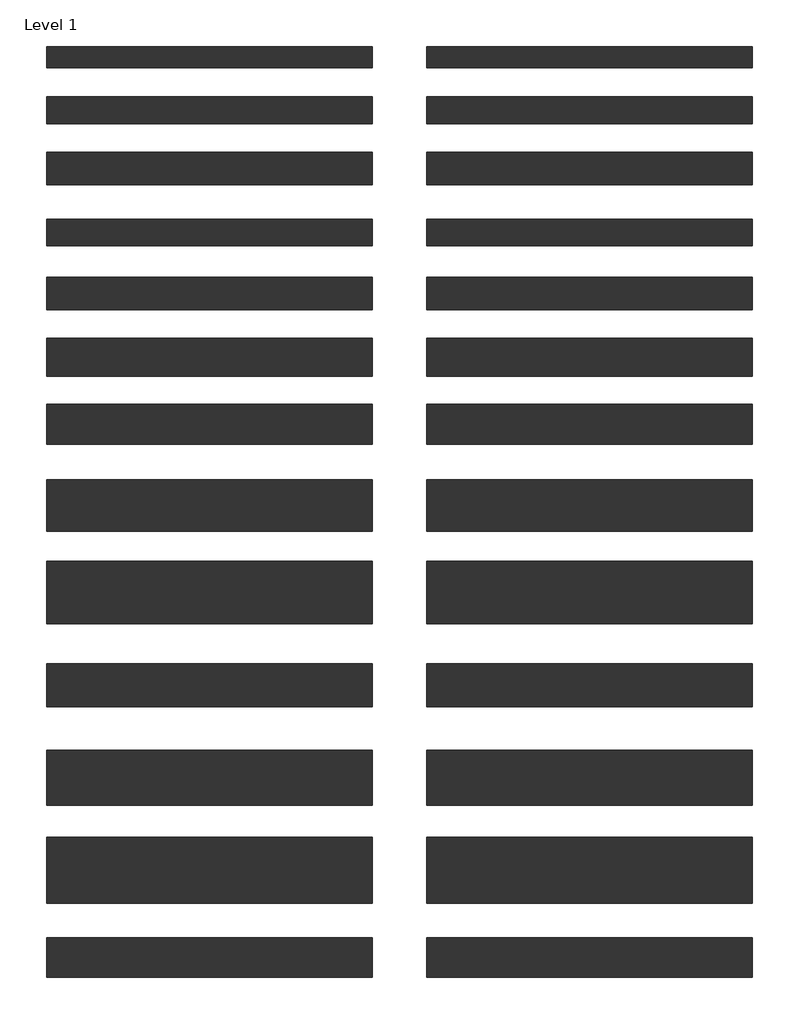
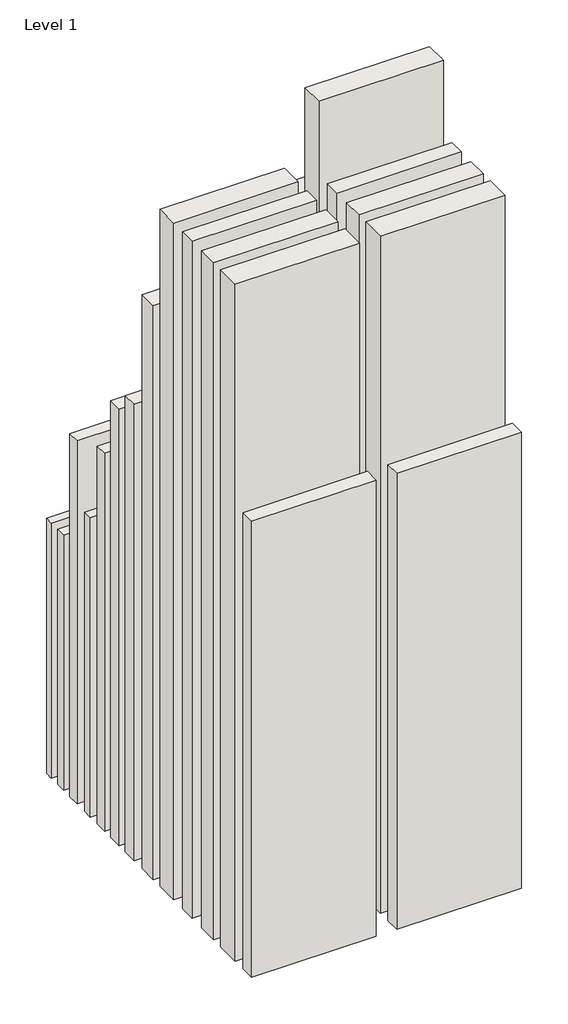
# One storey: 26 walls.
"""IFC4 building model written with IfcOpenShell, lengths in millimetres."""

from ifc_helpers import new_model, si_unit, origin, origin_with_axes, place, context, project, spatial, polyline, outline, extrude, element, save

model = new_model("IFC4")

# Units and contexts
model_context = context("Model", 3, world=origin())
ifc_project = project(units=[si_unit("LENGTHUNIT", "METRE", prefix="MILLI")], contexts=[model_context])

# Site, building, storey
site = spatial("IfcSite", under=ifc_project)
building = spatial("IfcBuilding", under=site)
storey = spatial("IfcBuildingStorey", under=building, Name="Level 1", Elevation=0.0)

# Walls
placement = place(None, origin())
element("IfcWall", 1, ObjectType="Tabique Simple – Placo®  78/600 PPH 15 + 48 (LM) + PPH 15 con LM Isover - 45,2 dBA", at=placement, inside=storey, context=model_context, shape_type="SweptSolid", body=[
    extrude(outline(polyline([(-10257.0854959, -1991.0445576), (-11457.0854959, -1991.0445576), (-11457.0854959, -1913.0445576), (-10257.0854959, -1913.0445576), (-10257.0854959, -1991.0445576)])), origin_with_axes(), (0.0, 0.0, 1.0), 2600.0),
])
element("IfcWall", 2, ObjectType="Tabique Simple – Placo®  78/400 PPH 15 + 48 (LM) + PPH 15 con LM Isover - 45,2 dBA 2", at=placement, inside=storey, context=model_context, shape_type="SweptSolid", body=[
    extrude(outline(polyline([(-8857.0854959, -1991.0445576), (-10057.0854959, -1991.0445576), (-10057.0854959, -1913.0445576), (-8857.0854959, -1913.0445576), (-8857.0854959, -1991.0445576)])), origin_with_axes(), (0.0, 0.0, 1.0), 2600.0),
])
element("IfcWall", 3, ObjectType="Tabique Simple – Placo®  100/600 PPH 15 + 70 (LM) + PPH 15 con LM Isover - 47 dBA", at=placement, inside=storey, context=model_context, shape_type="SweptSolid", body=[
    extrude(outline(polyline([(-10257.0854959, -2197.5442564), (-11457.0854959, -2197.5442564), (-11457.0854959, -2097.5442564), (-10257.0854959, -2097.5442564), (-10257.0854959, -2197.5442564)])), origin_with_axes(), (0.0, 0.0, 1.0), 2600.0),
])
element("IfcWall", 4, ObjectType="Tabique Simple – Placo®  100/400 PPH 15 + 70 (LM) + PPH 15 con LM Isover - 47 dBA", at=placement, inside=storey, context=model_context, shape_type="SweptSolid", body=[
    extrude(outline(polyline([(-8857.0854959, -2197.5442564), (-10057.0854959, -2197.5442564), (-10057.0854959, -2097.5442564), (-8857.0854959, -2097.5442564), (-8857.0854959, -2197.5442564)])), origin_with_axes(), (0.0, 0.0, 1.0), 2600.0),
])
element("IfcWall", 5, ObjectType="Tabique Simple – Placo®  120/600 PPH 15 + 90 (LM) + PPH 15 con LM Isover - 48 dBA", at=placement, inside=storey, context=model_context, shape_type="SweptSolid", body=[
    extrude(outline(polyline([(-10257.0854959, -2422.5442564), (-11457.0854959, -2422.5442564), (-11457.0854959, -2302.5442564), (-10257.0854959, -2302.5442564), (-10257.0854959, -2422.5442564)])), origin_with_axes(), (0.0, 0.0, 1.0), 3700.0),
])
element("IfcWall", 6, ObjectType="Tabique Simple – Placo®  120/400 PPH 15 + 90 (LM) + PPH 15 con LM Isover - 48 dBA", at=placement, inside=storey, context=model_context, shape_type="SweptSolid", body=[
    extrude(outline(polyline([(-8857.0854959, -2422.5442564), (-10057.0854959, -2422.5442564), (-10057.0854959, -2302.5442564), (-8857.0854959, -2302.5442564), (-8857.0854959, -2422.5442564)])), origin_with_axes(), (0.0, 0.0, 1.0), 4100.0),
])
element("IfcWall", 7, ObjectType="Tabique Simple – Placo®  98/600 2xPPH 13 + 48 (LM) + 2xPPH 13 con LM Isover - 53,1 dBA", at=placement, inside=storey, context=model_context, shape_type="SweptSolid", body=[
    extrude(outline(polyline([(-10257.0854959, -2646.5442564), (-11457.0854959, -2646.5442564), (-11457.0854959, -2548.5442564), (-10257.0854959, -2548.5442564), (-10257.0854959, -2646.5442564)])), origin_with_axes(), (0.0, 0.0, 1.0), 3050.0),
])
element("IfcWall", 8, ObjectType="Tabique Simple – Placo®  98/400 2xPPH 13 + 48 (LM) + 2xPPH 13 con LM Isover - 53,1 dBA", at=placement, inside=storey, context=model_context, shape_type="SweptSolid", body=[
    extrude(outline(polyline([(-8857.0854959, -2646.5442564), (-10057.0854959, -2646.5442564), (-10057.0854959, -2548.5442564), (-8857.0854959, -2548.5442564), (-8857.0854959, -2646.5442564)])), origin_with_axes(), (0.0, 0.0, 1.0), 3350.0),
])
element("IfcWall", 9, ObjectType="Tabique Simple – Placo®  120/600 2xPPH 13 + 70 (LM) + 2xPPH 13 con LM Isover - 55 dBA", at=placement, inside=storey, context=model_context, shape_type="SweptSolid", body=[
    extrude(outline(polyline([(-10257.0854959, -2882.5442564), (-11457.0854959, -2882.5442564), (-11457.0854959, -2762.5442564), (-10257.0854959, -2762.5442564), (-10257.0854959, -2882.5442564)])), origin_with_axes(), (0.0, 0.0, 1.0), 3850.0),
])
element("IfcWall", 10, ObjectType="Tabique Simple – Placo®  120/400 2xPPH 13 + 70 (LM) + 2xPPH 13 con LM Isover - 55 dBA", at=placement, inside=storey, context=model_context, shape_type="SweptSolid", body=[
    extrude(outline(polyline([(-8857.0854959, -2882.5442564), (-10057.0854959, -2882.5442564), (-10057.0854959, -2762.5442564), (-8857.0854959, -2762.5442564), (-8857.0854959, -2882.5442564)])), origin_with_axes(), (0.0, 0.0, 1.0), 4250.0),
])
element("IfcWall", 11, ObjectType="Tabique Simple – Placo®  140/600 2xPPH 13 + 90 (LM) + 2xPPH 13 con LM Isover - ≥ 55 dBA", at=placement, inside=storey, context=model_context, shape_type="SweptSolid", body=[
    extrude(outline(polyline([(-10257.0854959, -3128.5442564), (-11457.0854959, -3128.5442564), (-11457.0854959, -2988.5442564), (-10257.0854959, -2988.5442564), (-10257.0854959, -3128.5442564)])), origin_with_axes(), (0.0, 0.0, 1.0), 4450.0),
])
element("IfcWall", 12, ObjectType="Tabique Simple – Placo®  140/400 2xPPH 13 + 90 (LM) + 2xPPH 13 con LM Isover - ≥ 55 dBA", at=placement, inside=storey, context=model_context, shape_type="SweptSolid", body=[
    extrude(outline(polyline([(-8857.0854959, -3128.5442564), (-10057.0854959, -3128.5442564), (-10057.0854959, -2988.5442564), (-8857.0854959, -2988.5442564), (-8857.0854959, -3128.5442564)])), origin_with_axes(), (0.0, 0.0, 1.0), 4950.0),
])
element("IfcWall", 13, ObjectType="Tabique Doble arriostrado– Placo®  146/600 2xPPH 13 + 2 x 48 (LM) + 2xPPH 13 con LM Isover - ≥ 55,9 dBA", at=placement, inside=storey, context=model_context, shape_type="SweptSolid", body=[
    extrude(outline(polyline([(-10257.0854959, -3377.5442564), (-11457.0854959, -3377.5442564), (-11457.0854959, -3231.5442564), (-10257.0854959, -3231.5442564), (-10257.0854959, -3377.5442564)])), origin_with_axes(), (0.0, 0.0, 1.0), 4650.0),
])
element("IfcWall", 14, ObjectType="Tabique Doble arriostrado– Placo®  146/400 2xPPH 13 + 2 x 48 (LM) + 2xPPH 13 con LM Isover - ≥ 55,9 dBA", at=placement, inside=storey, context=model_context, shape_type="SweptSolid", body=[
    extrude(outline(polyline([(-8857.0854959, -3377.5442564), (-10057.0854959, -3377.5442564), (-10057.0854959, -3231.5442564), (-8857.0854959, -3231.5442564), (-8857.0854959, -3377.5442564)])), origin_with_axes(), (0.0, 0.0, 1.0), 5150.0),
])
element("IfcWall", 15, ObjectType="Tabique Doble arriostrado– Placo®  190/600 2xPPH 13 + 2 x 70 (LM) + 2xPPH 13 con LM Isover - ≥ 55,9 dBA", at=placement, inside=storey, context=model_context, shape_type="SweptSolid", body=[
    extrude(outline(polyline([(-10257.0854959, -3698.5442564), (-11457.0854959, -3698.5442564), (-11457.0854959, -3508.5442564), (-10257.0854959, -3508.5442564), (-10257.0854959, -3698.5442564)])), origin_with_axes(), (0.0, 0.0, 1.0), 5850.0),
])
element("IfcWall", 16, ObjectType="Tabique Doble arriostrado– Placo®  190/400 2xPPH 13 + 2 x 70 (LM) + 2xPPH 13 con LM Isover - ≥ 55,9 dBA", at=placement, inside=storey, context=model_context, shape_type="SweptSolid", body=[
    extrude(outline(polyline([(-8857.0854959, -3698.5442564), (-10057.0854959, -3698.5442564), (-10057.0854959, -3508.5442564), (-8857.0854959, -3508.5442564), (-8857.0854959, -3698.5442564)])), origin_with_axes(), (0.0, 0.0, 1.0), 6500.0),
])
element("IfcWall", 17, ObjectType="Tabique Doble arriostrado– Placo®  230/600 2xPPH 13 + 2 x 90 (LM) + 2xPPH 13 con LM Isover - ≥ 55,9 dBA", at=placement, inside=storey, context=model_context, shape_type="SweptSolid", body=[
    extrude(outline(polyline([(-10257.0854959, -4039.5442564), (-11457.0854959, -4039.5442564), (-11457.0854959, -3809.5442564), (-10257.0854959, -3809.5442564), (-10257.0854959, -4039.5442564)])), origin_with_axes(), (0.0, 0.0, 1.0), 6900.0),
])
element("IfcWall", 18, ObjectType="Tabique Doble arriostrado– Placo®  230/400 2xPPH 13 + 2 x 90 (LM) + 2xPPH 13 con LM Isover - ≥ 55,9 dBA", at=placement, inside=storey, context=model_context, shape_type="SweptSolid", body=[
    extrude(outline(polyline([(-8857.0854959, -4039.5442564), (-10057.0854959, -4039.5442564), (-10057.0854959, -3809.5442564), (-8857.0854959, -3809.5442564), (-8857.0854959, -4039.5442564)])), origin_with_axes(), (0.0, 0.0, 1.0), 7650.0),
])
element("IfcWall", 19, ObjectType="Tabique Doble arriostrado– Placo®  158/600 2xPPH 13 + 48 (LM) + PPH13 + 48 (LM) + 2xPPH 13 con LM Isover - 59,7 dBA", at=placement, inside=storey, context=model_context, shape_type="SweptSolid", body=[
    extrude(outline(polyline([(-10257.0854959, -4344.7942564), (-11457.0854959, -4344.7942564), (-11457.0854959, -4186.2942564), (-10257.0854959, -4186.2942564), (-10257.0854959, -4344.7942564)])), origin_with_axes(), (0.0, 0.0, 1.0), 6900.0),
])
element("IfcWall", 20, ObjectType="Tabique Doble arriostrado– Placo®  158/400 2xPPH 13 + 48 (LM) + PPH13 + 48 (LM) + 2xPPH 13 con LM Isover - 59,7 dBA", at=placement, inside=storey, context=model_context, shape_type="SweptSolid", body=[
    extrude(outline(polyline([(-8857.0854959, -4344.7942564), (-10057.0854959, -4344.7942564), (-10057.0854959, -4186.2942564), (-8857.0854959, -4186.2942564), (-8857.0854959, -4344.7942564)])), origin_with_axes(), (0.0, 0.0, 1.0), 6900.0),
])
element("IfcWall", 21, ObjectType="Tabique Doble arriostrado– Placo®  203/600 2xPPH 13 + 70 (LM) + PPH13 + 70 (LM) + 2xPPH 13 con LM Isover - 59,7 dBA", at=placement, inside=storey, context=model_context, shape_type="SweptSolid", body=[
    extrude(outline(polyline([(-10257.0854959, -4707.7942564), (-11457.0854959, -4707.7942564), (-11457.0854959, -4505.2942564), (-10257.0854959, -4505.2942564), (-10257.0854959, -4707.7942564)])), origin_with_axes(), (0.0, 0.0, 1.0), 6900.0),
])
element("IfcWall", 22, ObjectType="Tabique Doble arriostrado– Placo®  203/400 2xPPH 13 + 70 (LM) + PPH13 + 70 (LM) + 2xPPH 13 con LM Isover - 59,7 dBA", at=placement, inside=storey, context=model_context, shape_type="SweptSolid", body=[
    extrude(outline(polyline([(-8857.0854959, -4707.7942564), (-10057.0854959, -4707.7942564), (-10057.0854959, -4505.2942564), (-8857.0854959, -4505.2942564), (-8857.0854959, -4707.7942564)])), origin_with_axes(), (0.0, 0.0, 1.0), 6900.0),
])
element("IfcWall", 23, ObjectType="Tabique Doble arriostrados– Placo®  243/600 2xPPH 13 + 90 (LM) + PPH13 + 90 (LM) + 2xPPH 13 con LM Isover - 59,7 dBA", at=placement, inside=storey, context=model_context, shape_type="SweptSolid", body=[
    extrude(outline(polyline([(-10257.0854959, -5068.7942564), (-11457.0854959, -5068.7942564), (-11457.0854959, -4826.2942564), (-10257.0854959, -4826.2942564), (-10257.0854959, -5068.7942564)])), origin_with_axes(), (0.0, 0.0, 1.0), 6900.0),
])
element("IfcWall", 24, ObjectType="Tabique Doble arriostrado– Placo®  243/400 2xPPH 13 + 90 (LM) + PPH13 + 90 (LM) + 2xPPH 13 con LM Isover - 59,7 dBA", at=placement, inside=storey, context=model_context, shape_type="SweptSolid", body=[
    extrude(outline(polyline([(-8857.0854959, -5068.7942564), (-10057.0854959, -5068.7942564), (-10057.0854959, -4826.2942564), (-8857.0854959, -4826.2942564), (-8857.0854959, -5068.7942564)])), origin_with_axes(), (0.0, 0.0, 1.0), 6900.0),
])
element("IfcWall", 25, ObjectType="Tabique Doble arriostrado– Placo®  146/600 2xPPH 13 + 2 x MP48 (LM) + 2xPPH 13 con LM Isover - 61,4 dBA", at=placement, inside=storey, context=model_context, shape_type="SweptSolid", body=[
    extrude(outline(polyline([(-10257.0854959, -5342.5442564), (-11457.0854959, -5342.5442564), (-11457.0854959, -5196.5442564), (-10257.0854959, -5196.5442564), (-10257.0854959, -5342.5442564)])), origin_with_axes(), (0.0, 0.0, 1.0), 4650.0),
])
element("IfcWall", 26, ObjectType="Tabique Doble arriostrado– Placo®  146/400 2xPPH 13 + 2 x MP48 (LM) + 2xPPH 13 con LM Isover - 61,4 dBA", at=placement, inside=storey, context=model_context, shape_type="SweptSolid", body=[
    extrude(outline(polyline([(-8857.0854959, -5342.5442564), (-10057.0854959, -5342.5442564), (-10057.0854959, -5196.5442564), (-8857.0854959, -5196.5442564), (-8857.0854959, -5342.5442564)])), origin_with_axes(), (0.0, 0.0, 1.0), 4650.0),
])

save(model, "model.ifc")
